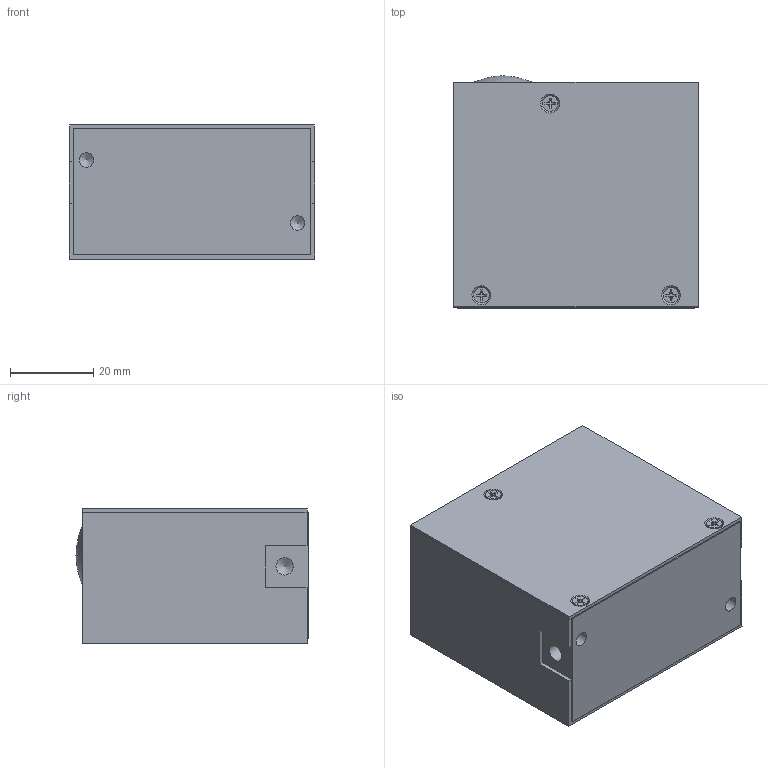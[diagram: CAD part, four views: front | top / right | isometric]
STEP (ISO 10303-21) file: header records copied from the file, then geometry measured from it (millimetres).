
FILE_DESCRIPTION(/* description */ ('STEP AP214'),/* implementation_level */ '2;1');
FILE_NAME(/* name */ '990-005011-050',/* time_stamp */ '2022-12-15T01:32:29+01:00',/* author */ ('License CC BY-ND 4.0'),/* organization */ ('CADENAS'),/* preprocessor_version */ 'ST-DEVELOPER v18.102',/* originating_system */ 'PARTsolutions',/* authorisation */ ' ');
FILE_SCHEMA (('AUTOMOTIVE_DESIGN {1 0 10303 214 3 1 1}'));
Length unit declared in the file: inch
Products named in the file (3): 990-005011-050; 990-005011-050_PART2; 990-005011-050_PART1
Assembly tree (2 placements, depth 2):
  990-005011-050
    990-005011-050_PART2
    990-005011-050_PART1
Bounding box: 58.93 x 55.82 x 32.26 mm (x, y, z)
Volume: 100941.4 mm3; surface area: 16390.9 mm2
Topology: 2 solids, 2 shells, 435 faces, 1199 edges, 784 vertices
Faces by surface type: plane 308, cone 78, cylinder 48, bspline 1
Full cylindrical faces by diameter (mm): 3.048 x1, 3.531 x2, 3.734 x5, 4.166 x2
Entity records: 13671 total; most frequent: CARTESIAN_POINT 2499, ORIENTED_EDGE 2328, DIRECTION 2236, EDGE_CURVE 1164, LINE 878, VECTOR 878, VERTEX_POINT 779, AXIS2_PLACEMENT_3D 679
